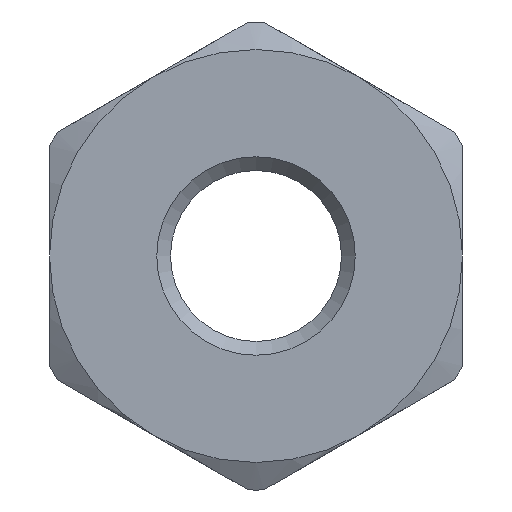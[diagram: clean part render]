
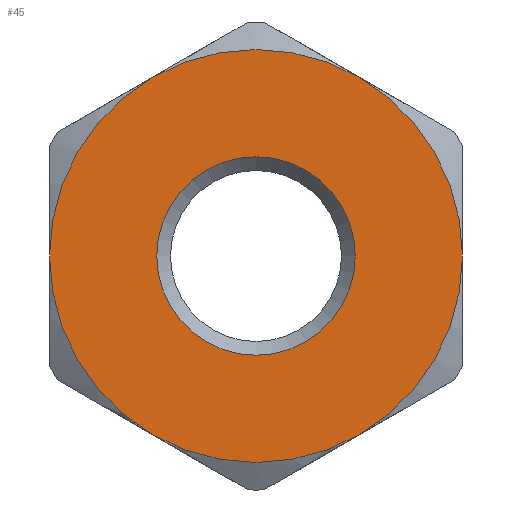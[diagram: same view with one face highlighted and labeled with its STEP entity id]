
A CAD part, front view. The second image highlights one B-rep face of the part: STEP entity #45.
In plain terms, the highlighted planar face has unit normal (0, -1, 0).
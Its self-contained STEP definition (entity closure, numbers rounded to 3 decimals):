
#45=ADVANCED_FACE('',(#76,#78),#80,.F.);
#76=FACE_BOUND('',#77,.T.);
#77=EDGE_LOOP('',(#246,#247,#248));
#78=FACE_BOUND('',#79,.T.);
#79=EDGE_LOOP('',(#249));
#80=PLANE('',#81);
#81=AXIS2_PLACEMENT_3D('',#82,#83,#84);
#82=CARTESIAN_POINT('',(0.,0.,0.));
#83=DIRECTION('',(0.,1.,0.));
#84=DIRECTION('',(-1.,0.,0.));
#246=ORIENTED_EDGE('',*,*,#344,.T.);
#247=ORIENTED_EDGE('',*,*,#345,.T.);
#248=ORIENTED_EDGE('',*,*,#346,.T.);
#249=ORIENTED_EDGE('',*,*,#347,.T.);
#344=EDGE_CURVE('',#395,#396,#397,.F.);
#345=EDGE_CURVE('',#396,#398,#399,.F.);
#346=EDGE_CURVE('',#398,#395,#400,.F.);
#347=EDGE_CURVE('',#401,#401,#402,.T.);
#395=VERTEX_POINT('',#484);
#396=VERTEX_POINT('',#485);
#397=CIRCLE('',#486,22.5);
#398=VERTEX_POINT('',#490);
#399=CIRCLE('',#491,22.5);
#400=CIRCLE('',#495,22.5);
#401=VERTEX_POINT('',#499);
#402=CIRCLE('',#500,10.816);
#484=CARTESIAN_POINT('',(22.5,0.,0.));
#485=CARTESIAN_POINT('',(-11.25,0.,19.486));
#486=AXIS2_PLACEMENT_3D('',#487,#488,#489);
#487=CARTESIAN_POINT('',(0.,0.,0.));
#488=DIRECTION('',(0.,1.,0.));
#489=DIRECTION('',(-0.5,0.,0.866));
#490=CARTESIAN_POINT('',(-22.5,0.,0.));
#491=AXIS2_PLACEMENT_3D('',#492,#493,#494);
#492=CARTESIAN_POINT('',(0.,0.,0.));
#493=DIRECTION('',(0.,1.,0.));
#494=DIRECTION('',(-1.,0.,0.));
#495=AXIS2_PLACEMENT_3D('',#496,#497,#498);
#496=CARTESIAN_POINT('',(0.,0.,0.));
#497=DIRECTION('',(0.,1.,0.));
#498=DIRECTION('',(1.,0.,0.));
#499=CARTESIAN_POINT('',(-10.816,0.,0.));
#500=AXIS2_PLACEMENT_3D('',#501,#502,#503);
#501=CARTESIAN_POINT('',(0.,0.,0.));
#502=DIRECTION('',(0.,1.,0.));
#503=DIRECTION('',(-1.,0.,0.));
